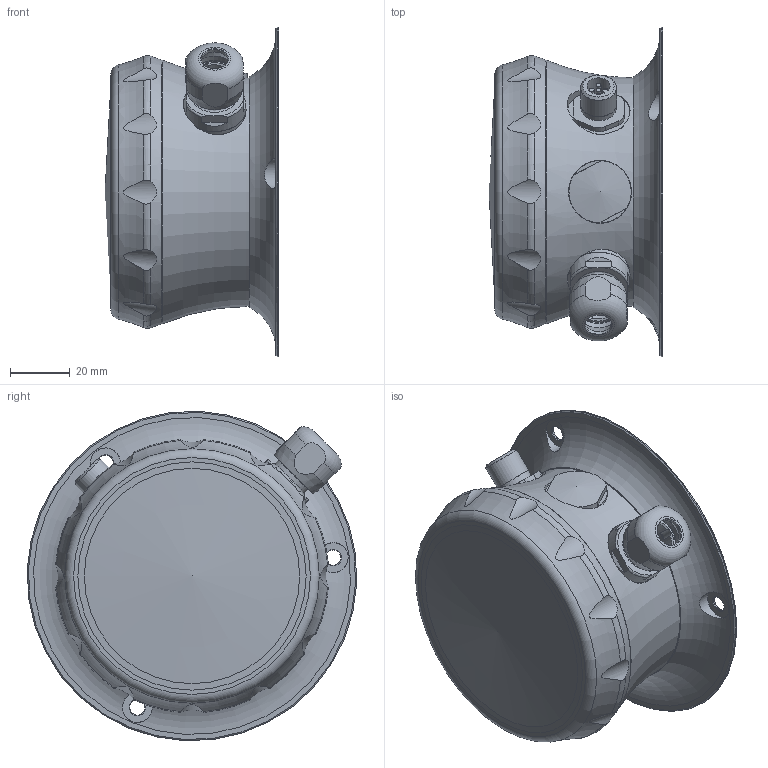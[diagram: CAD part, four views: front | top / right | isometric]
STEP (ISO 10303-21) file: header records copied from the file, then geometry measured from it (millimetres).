
FILE_DESCRIPTION(/* description */ ('Unknown'),/* implementation_level */ '2;1');
FILE_NAME(/* name */ 'TFR5-A131.6007.0000',/* time_stamp */ '2019-01-18T14:45:07+01:00',/* author */ ('Unknown'),/* organization */ ('Unknown'),/* preprocessor_version */ 'ST-DEVELOPER v16.7',/* originating_system */ 'DEX',/* authorisation */ $);
FILE_SCHEMA (('AUTOMOTIVE_DESIGN {1 0 10303 214 3 1 1}'));
Length unit declared in the file: millimetre
Products named in the file (1): Part3
Bounding box: 58.05 x 109.89 x 109.89 mm (x, y, z)
Volume: 112184.7 mm3; surface area: 72702.1 mm2
Topology: 1 solids, 2 shells, 292 faces, 737 edges, 494 vertices
Faces by surface type: cylinder 97, plane 93, cone 48, torus 48, bspline 6
Full cylindrical faces by diameter (mm): 1.64 x5, 3.4 x2, 5.1 x3, 9 x1, 10 x2, 11.741 x1, 12 x1, 12.2 x1, 13.8 x1, 14 x2, 14.376 x1, 14.38 x1, 15.2 x1, 15.8 x1, 16 x7, 20.8 x2, 21 x2, 40 x1, 76.333 x1, 76.4 x1, 78.4 x1, 81.2 x1, 82 x1, 83.7 x1, 110 x1
Entity records: 11849 total; most frequent: CARTESIAN_POINT 3696, DIRECTION 1223, ORIENTED_EDGE 1148, EDGE_CURVE 574, AXIS2_PLACEMENT_3D 558, FACE_BOUND 454, EDGE_LOOP 452, VERTEX_POINT 438
